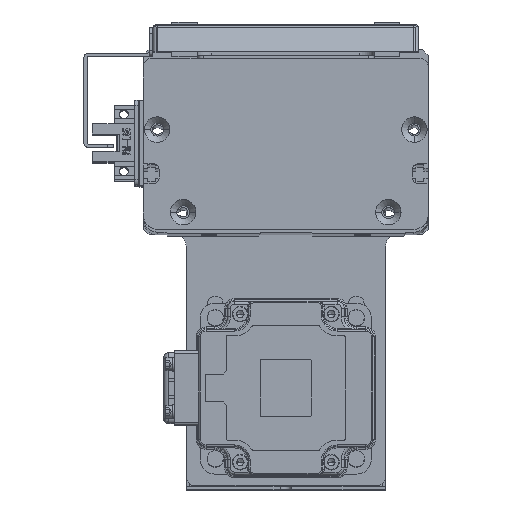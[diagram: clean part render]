
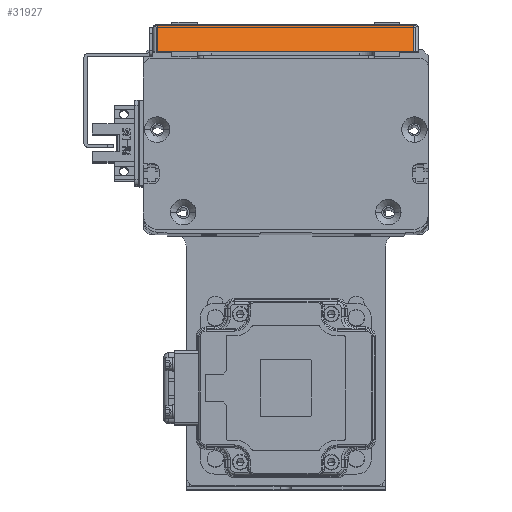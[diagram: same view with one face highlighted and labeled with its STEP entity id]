
A CAD part, top view. The second image highlights one B-rep face of the part: STEP entity #31927.
In plain terms, the highlighted planar face has unit normal (0, 0.707, 0.707) as drawn and (-0.707, 0, -0.707) by its records, which use the part's own axes.
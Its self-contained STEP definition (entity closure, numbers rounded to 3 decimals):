
#4371 = ORIENTED_EDGE ( 'NONE', *, *, #66390, .T. ) ;
#8851 = CARTESIAN_POINT ( 'NONE',  ( -57.298, 91.7, -5.102 ) ) ;
#8974 = CARTESIAN_POINT ( 'NONE',  ( -68., 1.7, 5.6 ) ) ;
#9531 = EDGE_CURVE ( 'NONE', #57892, #67585, #60726, .T. ) ;
#9777 = CARTESIAN_POINT ( 'NONE',  ( -66.5, 91.7, 4.1 ) ) ;
#12960 = ORIENTED_EDGE ( 'NONE', *, *, #9531, .T. ) ;
#13060 = VECTOR ( 'NONE', #46740, 1000. ) ;
#17850 = VERTEX_POINT ( 'NONE', #8851 ) ;
#18794 = LINE ( 'NONE', #8974, #26847 ) ;
#20030 = DIRECTION ( 'NONE',  ( 0.707, 0., -0.707 ) ) ;
#20369 = CARTESIAN_POINT ( 'NONE',  ( -66.5, 93.4, 4.1 ) ) ;
#22093 = FACE_OUTER_BOUND ( 'NONE', #34129, .T. ) ;
#22242 = LINE ( 'NONE', #57152, #50647 ) ;
#23090 = CARTESIAN_POINT ( 'NONE',  ( -66.5, 1.7, 4.1 ) ) ;
#24584 = VERTEX_POINT ( 'NONE', #51469 ) ;
#26847 = VECTOR ( 'NONE', #62486, 1000. ) ;
#29240 = ORIENTED_EDGE ( 'NONE', *, *, #44622, .T. ) ;
#31927 = ADVANCED_FACE ( 'NONE', ( #22093 ), #35086, .T. ) ;
#33536 = DIRECTION ( 'NONE',  ( 0., -1., 0. ) ) ;
#33619 = LINE ( 'NONE', #49676, #41135 ) ;
#34129 = EDGE_LOOP ( 'NONE', ( #60249, #12960, #29240, #4371 ) ) ;
#35086 = PLANE ( 'NONE',  #36660 ) ;
#36660 = AXIS2_PLACEMENT_3D ( 'NONE', #45409, #60122, #65516 ) ;
#41135 = VECTOR ( 'NONE', #33536, 1000. ) ;
#44622 = EDGE_CURVE ( 'NONE', #67585, #17850, #22242, .T. ) ;
#45409 = CARTESIAN_POINT ( 'NONE',  ( -68., 93.4, 5.6 ) ) ;
#46740 = DIRECTION ( 'NONE',  ( 0., 1., 0. ) ) ;
#49676 = CARTESIAN_POINT ( 'NONE',  ( -57.298, 93.4, -5.102 ) ) ;
#50647 = VECTOR ( 'NONE', #20030, 1000. ) ;
#51469 = CARTESIAN_POINT ( 'NONE',  ( -57.298, 1.7, -5.102 ) ) ;
#57152 = CARTESIAN_POINT ( 'NONE',  ( -68., 91.7, 5.6 ) ) ;
#57892 = VERTEX_POINT ( 'NONE', #23090 ) ;
#58086 = EDGE_CURVE ( 'NONE', #24584, #57892, #18794, .T. ) ;
#60122 = DIRECTION ( 'NONE',  ( -0.707, 0., -0.707 ) ) ;
#60249 = ORIENTED_EDGE ( 'NONE', *, *, #58086, .T. ) ;
#60726 = LINE ( 'NONE', #20369, #13060 ) ;
#62486 = DIRECTION ( 'NONE',  ( -0.707, 0., 0.707 ) ) ;
#65516 = DIRECTION ( 'NONE',  ( -0.707, 0., 0.707 ) ) ;
#66390 = EDGE_CURVE ( 'NONE', #17850, #24584, #33619, .T. ) ;
#67585 = VERTEX_POINT ( 'NONE', #9777 ) ;
